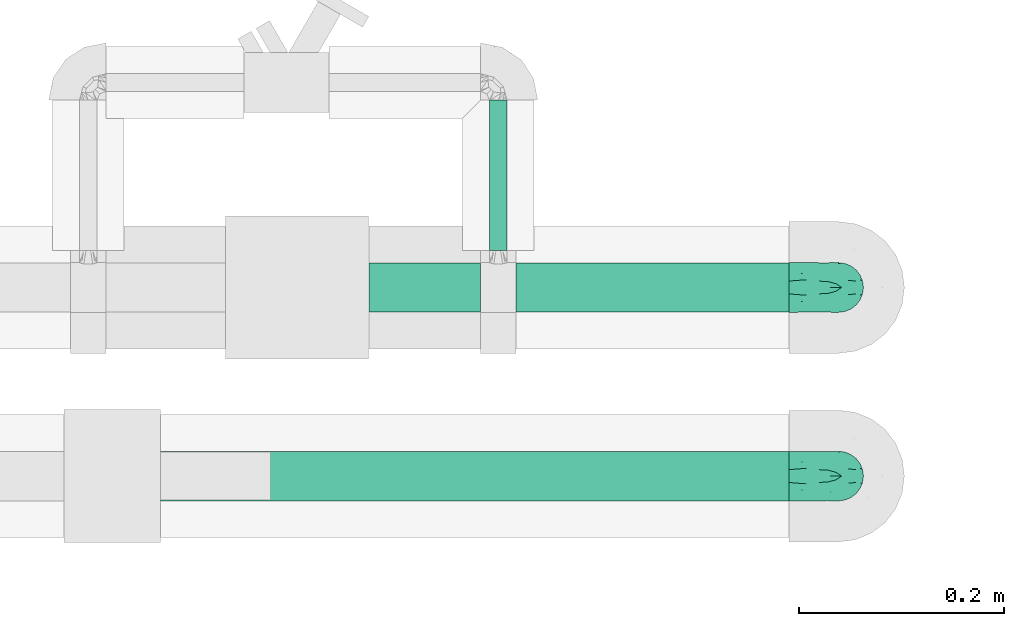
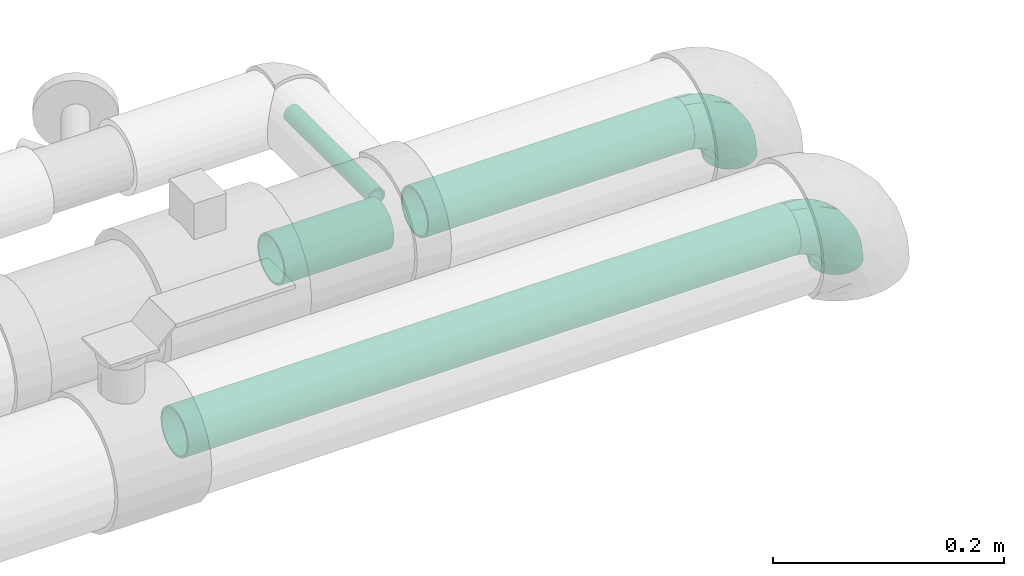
# One storey, part 39 of 83: 4 flow segments, 2 flow fittings.
"""IFC2X3 building model written with IfcOpenShell, lengths in millimetres."""

from ifc_helpers import new_model, entity, si_unit, converted_unit, derived_unit, direction, frame, origin_with_axes, origin_2d_with_axis, place, context, subcontext, project, spatial, hollow_circle, extrude, open_shell, surface_model, source, transform, mapped, type_object, element, save


model = new_model("IFC2X3")

# Units and contexts
model_context = context("Model", 3, precision=0.01, world=frame((0.0, 4.29681676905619e-09, 0.0)), true_north=direction((4.01073788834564e-13, 1.0)))
plan_context = context("Plan", 3, precision=0.01, world=frame((0.0, 4.29681676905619e-09, 0.0)), true_north=direction((4.01073788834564e-13, 1.0)))
body_context = subcontext(model_context, "Body", "Model", "MODEL_VIEW")
ifc_project = project(units=[converted_unit("PLANEANGLEUNIT", "DEGREE", entity("IfcPositiveLengthMeasure", 0.0174532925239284), si_unit("PLANEANGLEUNIT", "RADIAN"), dimensions=[0, 0, 0, 0, 0, 0, 0]), si_unit("AREAUNIT", "SQUARE_METRE"), si_unit("LENGTHUNIT", "METRE", prefix="MILLI"), si_unit("MASSUNIT", "GRAM", prefix="KILO"), si_unit("POWERUNIT", "WATT"), si_unit("PRESSUREUNIT", "PASCAL"), si_unit("FORCEUNIT", "NEWTON", prefix="KILO"), si_unit("ELECTRICVOLTAGEUNIT", "VOLT"), si_unit("ELECTRICCURRENTUNIT", "AMPERE"), si_unit("THERMODYNAMICTEMPERATUREUNIT", "DEGREE_CELSIUS"), si_unit("TIMEUNIT", "SECOND"), si_unit("VOLUMEUNIT", "CUBIC_METRE"), derived_unit("LINEARVELOCITYUNIT", [(si_unit("LENGTHUNIT", "METRE"), 1), (si_unit("TIMEUNIT", "SECOND"), -1)]), derived_unit("VOLUMETRICFLOWRATEUNIT", [(si_unit("VOLUMEUNIT", "CUBIC_METRE"), 1), (si_unit("TIMEUNIT", "SECOND"), -1)]), derived_unit("THERMALTRANSMITTANCEUNIT", [(si_unit("POWERUNIT", "WATT"), 1), (si_unit("THERMODYNAMICTEMPERATUREUNIT", "KELVIN"), -1), (si_unit("AREAUNIT", "SQUARE_METRE"), -1)]), derived_unit("SOUNDPRESSUREUNIT", [(si_unit("PRESSUREUNIT", "PASCAL"), 1)])], contexts=[model_context, plan_context])

# Site, building, storey
site_placement = place(None, frame((0.0, -4.29681676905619e-09, 0.0), z_axis=(0.0, 0.0, 1.0), x_axis=(1.0, 0.0, 0.0)))
site = spatial("IfcSite", under=ifc_project, at=site_placement, Name="ENGM", CompositionType="ELEMENT")
building_placement = place(site_placement, frame((0.0, 4.29681676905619e-09, 0.0), z_axis=(0.0, 0.0, 1.0), x_axis=(1.0, 0.0, 0.0)))
building = spatial("IfcBuilding", under=site, at=building_placement, Name="TI", CompositionType="ELEMENT")
storey_placement = place(building_placement, frame((0.0, 0.0, 204000.0), z_axis=(0.0, 0.0, 1.0), x_axis=(1.0, 0.0, 0.0)))
storey = spatial("IfcBuildingStorey", under=building, at=storey_placement, Name="Nivå D", CompositionType="ELEMENT", Elevation=204000.0)

# Flow fittings
pipe_fitting_type = type_object("IfcPipeFittingType", Name="magi_pipe_fe_elbow_short_001", PredefinedType="BEND")
shared_shape_1 = source(origin_with_axes(), body_context, "Body", "SurfaceModel", [
    surface_model("IfcShellBasedSurfaceModel", [(-48.4, 6.26342, -23.37541), (-48.4, 0.0, -24.2), (-48.4, 17.11198, -17.11198), (-48.4, 12.1, -20.95781), (-48.4, 23.37541, -6.26342), (-48.4, 20.95781, -12.1), (-48.4, -12.1, -20.95781), (-48.4, -17.11198, -17.11198), (-48.4, -20.95781, -12.1), (-48.4, -6.26342, -23.37541), (-48.4, -23.37541, -6.26342), (-48.4, -24.2, 0.0), (-48.4, -23.37541, 6.26342), (-48.4, 23.37541, 6.26342), (-48.4, 6.26342, 23.37541), (-48.4, 20.95781, 12.1), (-48.4, 17.11198, 17.11198), (-48.4, 12.1, 20.95781), (-48.4, -12.1, 20.95781), (-48.4, -20.95781, 12.1), (-48.4, -17.11198, 17.11198), (-48.4, -6.26342, 23.37541), (-48.4, 0.0, 24.2), (-48.4, 24.2, 0.0), (-17.11198, 48.4, -17.11198), (0.0, 48.4, -24.2), (-6.26342, 48.4, -23.37541), (-12.1, 48.4, -20.95781), (-20.95781, 48.4, -12.1), (-23.37541, 48.4, -6.26342), (12.1, 48.4, -20.95781), (20.95781, 48.4, -12.1), (17.11198, 48.4, -17.11198), (6.26342, 48.4, -23.37541), (23.37541, 48.4, -6.26342), (23.37541, 48.4, 6.26342), (24.2, 48.4, 0.0), (-23.37541, 48.4, 6.26342), (-6.26342, 48.4, 23.37541), (-17.11198, 48.4, 17.11198), (-20.95781, 48.4, 12.1), (-12.1, 48.4, 20.95781), (12.1, 48.4, 20.95781), (17.11198, 48.4, 17.11198), (20.95781, 48.4, 12.1), (0.0, 48.4, 24.2), (6.26342, 48.4, 23.37541), (-24.2, 48.4, 0.0), (-35.50368, -18.80076, 13.58523), (-31.77913, -13.9618, 18.03279), (-34.50859, -21.43683, 0.0), (-21.39243, -15.41147, 12.21413), (-32.16301, -21.12203, 7.54749), (21.12203, 32.16301, 7.54749), (17.07617, 18.95745, 6.20374), (18.67365, 20.61718, 0.0), (-23.65565, 38.62451, 10.51816), (-20.21592, 37.67665, 15.89859), (-35.56981, -9.15108, 21.77256), (-36.96985, -3.20584, 23.78612), (-33.88786, 3.70953, 24.15875), (-8.84062, -10.8048, 0.0), (-18.95745, -17.07617, 6.20374), (-20.61718, -18.67365, 0.0), (-18.69715, -5.87343, 20.10488), (-24.09336, -0.21717, 23.45593), (-2.08262, -4.09091, 10.90396), (-0.40561, 0.49936, 14.45569), (-8.22634, -5.79523, 14.90978), (-37.83027, 20.17367, 15.88169), (-8.41063, 23.79825, 24.15658), (-17.92529, 17.92529, 23.61199), (-14.40991, 10.5752, 24.07534), (-41.86919, 14.6551, 19.71874), (-9.03342, 41.7434, 22.66763), (-3.31671, 36.19978, 24.14056), (-38.63654, 23.65174, 10.51655), (-38.25939, 25.77657, 5.32075), (-30.0475, 30.0475, 9.04616), (-37.30448, 9.49113, 22.86036), (-6.31688, 16.20853, 23.76192), (-12.02449, 4.43954, 22.59792), (-2.47225, 13.07459, 22.23951), (-4.32281, 4.32281, 19.78555), (13.9618, 31.77913, 18.03279), (15.41147, 21.39243, 12.21413), (18.80076, 35.50367, 13.58523), (-25.72741, 16.42033, 22.38358), (-26.59277, 10.36599, 23.76692), (3.20584, 36.96985, 23.78612), (9.15107, 35.56981, 21.77256), (5.87343, 18.69715, 20.10488), (21.43683, 34.50859, 0.0), (-23.74657, 5.93004, 24.18967), (-22.40302, 25.55556, 19.88516), (-33.3245, 16.42738, 20.3789), (-25.47357, 39.04012, 5.19167), (-30.32947, 31.74105, 4.25904), (11.04589, 19.60124, 16.55181), (-27.44219, 36.3, 0.0), (-10.46605, 32.79159, 23.04712), (-13.80953, 25.05111, 23.26361), (-17.54489, 31.27863, 20.33941), (-19.27982, 23.42922, 22.01925), (-14.78447, 40.57947, 19.81913), (-19.60124, -11.04589, 16.55181), (-25.09785, 32.07921, 13.69695), (-25.5093, 27.02629, 17.14196), (-31.08127, 26.00324, 13.49448), (0.21717, 24.09336, 23.45593), (5.51075, 8.40547, 15.32867), (-11.48597, -10.80284, 11.35932), (1.43689, -3.14326, 6.54995), (7.34882, 4.31024, 8.4514), (7.50574, 2.51208, 3.62663), (12.46453, 10.09451, 5.71609), (12.1504, 12.55391, 10.15678), (-36.3, 27.44219, 0.0), (-6.52237, -9.62364, 7.02633), (2.93595, -2.93595, 0.0), (10.8048, 8.84062, 0.0), (-19.60124, -11.04589, -16.55181), (-31.77913, -13.9618, -18.03279), (-18.69715, -5.87343, -20.10488), (-21.39243, -15.41147, -12.21413), (-37.67665, 20.21591, -15.89859), (-40.57947, 14.78447, -19.81913), (-39.04012, 25.47357, -5.19167), (-32.16301, -21.12203, -7.54749), (-30.0475, 30.0475, -9.04616), (-38.62452, 23.65565, -10.51816), (-18.95745, -17.07617, -6.20374), (-23.42922, 19.27982, -22.01926), (-25.05111, 13.80953, -23.26361), (-31.27863, 17.54489, -20.33941), (-14.6551, 41.86919, -19.71874), (-20.17367, 37.83026, -15.88169), (9.15108, 35.56981, -21.77256), (5.87343, 18.69715, -20.10488), (0.21717, 24.09336, -23.45593), (-41.7434, 9.03342, -22.66763), (-35.50368, -18.80076, -13.58523), (-35.56981, -9.15108, -21.77256), (-16.42033, 25.72741, -22.38358), (-9.49113, 37.30447, -22.86036), (-10.36599, 26.59277, -23.76692), (-36.96985, -3.20584, -23.78612), (-23.79826, 8.41063, -24.15658), (-17.92529, 17.92529, -23.61199), (-10.5752, 14.40991, -24.07534), (-36.19978, 3.31671, -24.14056), (-25.77657, 38.25939, -5.32075), (-23.65174, 38.63654, -10.51655), (-32.79159, 10.46605, -23.04712), (-31.74105, 30.32946, -4.25904), (-5.93004, 23.74657, -24.18967), (-25.55556, 22.40302, -19.88516), (-16.42738, 33.3245, -20.3789), (3.20584, 36.96985, -23.78612), (-3.70953, 33.88785, -24.15875), (18.80076, 35.50367, -13.58523), (13.9618, 31.77913, -18.03279), (7.50574, 2.51208, -3.62663), (12.46453, 10.09451, -5.71609), (-16.20853, 6.31688, -23.76192), (-4.43954, 12.02449, -22.59792), (-13.07459, 2.47225, -22.23951), (1.43689, -3.14326, -6.54995), (-6.52237, -9.62364, -7.02632), (-2.08262, -4.09091, -10.90396), (15.41147, 21.39243, -12.21413), (21.12203, 32.16301, -7.54749), (17.07617, 18.95745, -6.20374), (-32.07921, 25.09785, -13.69695), (11.04589, 19.60124, -16.55181), (12.1504, 12.55391, -10.15678), (5.51075, 8.40547, -15.32867), (-27.02629, 25.5093, -17.14196), (-26.00324, 31.08127, -13.49448), (-24.09336, -0.21717, -23.45593), (-4.32281, 4.32281, -19.78555), (-8.22634, -5.79524, -14.90978), (-11.48597, -10.80284, -11.35931), (-0.40561, 0.49936, -14.45569), (7.34882, 4.31024, -8.4514)], [open_shell([[[0, 1, 2]], [[3, 0, 2]], [[4, 5, 2]], [[6, 2, 1]], [[4, 2, 6]], [[7, 8, 6]], [[1, 9, 6]], [[8, 10, 6]], [[6, 10, 4]], [[11, 12, 10]], [[13, 4, 10]], [[14, 13, 10]], [[15, 13, 16]], [[13, 14, 17]], [[16, 13, 17]], [[10, 18, 14]], [[19, 20, 12]], [[20, 10, 12]], [[21, 22, 18]], [[20, 18, 10]], [[18, 22, 14]], [[23, 4, 13]], [[24, 25, 26]], [[24, 26, 27]], [[24, 28, 29]], [[25, 24, 30]], [[30, 24, 29]], [[30, 31, 32]], [[30, 33, 25]], [[30, 34, 31]], [[29, 34, 30]], [[34, 35, 36]], [[34, 29, 37]], [[34, 37, 38]], [[39, 37, 40]], [[41, 38, 37]], [[41, 37, 39]], [[38, 42, 34]], [[35, 43, 44]], [[35, 34, 43]], [[42, 45, 46]], [[34, 42, 43]], [[38, 45, 42]], [[37, 29, 47]], [[20, 48, 49]], [[12, 11, 50]], [[51, 48, 52]], [[53, 54, 55]], [[48, 20, 19]], [[12, 52, 19]], [[40, 56, 57]], [[49, 18, 20]], [[49, 58, 18]], [[22, 59, 60]], [[61, 62, 63]], [[58, 64, 65]], [[66, 67, 68]], [[15, 16, 69]], [[70, 71, 72]], [[17, 73, 16]], [[21, 59, 22]], [[38, 74, 75]], [[22, 60, 14]], [[15, 69, 76]], [[16, 73, 69]], [[23, 13, 77]], [[13, 15, 76]], [[77, 76, 78]], [[14, 79, 17]], [[80, 81, 82]], [[68, 83, 64]], [[84, 43, 42]], [[85, 86, 84]], [[87, 79, 88]], [[18, 58, 21]], [[45, 89, 46]], [[53, 35, 44]], [[45, 38, 75]], [[84, 90, 91]], [[44, 86, 53]], [[92, 35, 53]], [[86, 44, 43]], [[90, 42, 46]], [[53, 55, 92]], [[88, 93, 72]], [[54, 53, 85]], [[87, 94, 95]], [[78, 96, 97]], [[98, 84, 91]], [[99, 96, 47]], [[79, 14, 60]], [[96, 78, 56]], [[62, 52, 63]], [[57, 39, 40]], [[100, 70, 75]], [[101, 102, 103]], [[12, 50, 52]], [[104, 41, 39]], [[74, 38, 41]], [[57, 102, 104]], [[105, 64, 49]], [[90, 84, 42]], [[40, 37, 56]], [[56, 106, 57]], [[102, 57, 107]], [[95, 107, 69]], [[76, 108, 78]], [[100, 101, 70]], [[89, 75, 109]], [[64, 58, 49]], [[63, 52, 50]], [[59, 58, 65]], [[105, 49, 51]], [[64, 83, 81]], [[89, 90, 46]], [[36, 35, 92]], [[109, 82, 91]], [[109, 91, 90]], [[91, 83, 110]], [[111, 68, 105]], [[66, 68, 111]], [[62, 51, 52]], [[66, 112, 113]], [[114, 115, 113]], [[98, 85, 84]], [[52, 48, 19]], [[49, 48, 51]], [[84, 86, 43]], [[53, 86, 85]], [[88, 79, 60]], [[73, 79, 95]], [[96, 56, 37]], [[78, 108, 106]], [[87, 103, 94]], [[100, 74, 104]], [[108, 69, 107]], [[78, 97, 77]], [[88, 72, 71]], [[109, 75, 70]], [[81, 72, 65]], [[70, 72, 80]], [[75, 89, 45]], [[90, 89, 109]], [[58, 59, 21]], [[60, 59, 65]], [[67, 83, 68]], [[110, 113, 116]], [[88, 60, 93]], [[87, 88, 71]], [[103, 87, 71]], [[79, 87, 95]], [[101, 103, 71]], [[94, 103, 102]], [[47, 96, 37]], [[96, 99, 97]], [[99, 117, 97]], [[97, 117, 77]], [[23, 77, 117]], [[13, 76, 77]], [[60, 65, 93]], [[65, 72, 93]], [[70, 101, 71]], [[102, 101, 100]], [[69, 108, 76]], [[106, 108, 107]], [[57, 106, 107]], [[78, 106, 56]], [[57, 104, 39]], [[100, 104, 102]], [[102, 107, 94]], [[95, 94, 107]], [[64, 81, 65]], [[82, 81, 83]], [[91, 82, 83]], [[80, 82, 109]], [[70, 80, 109]], [[81, 80, 72]], [[79, 73, 17]], [[69, 73, 95]], [[104, 74, 41]], [[75, 74, 100]], [[62, 61, 118]], [[111, 62, 118]], [[113, 115, 116]], [[119, 118, 61]], [[111, 105, 51]], [[113, 112, 114]], [[120, 55, 54]], [[68, 64, 105]], [[91, 110, 98]], [[116, 98, 110]], [[62, 111, 51]], [[66, 111, 118]], [[112, 66, 118]], [[67, 113, 110]], [[118, 119, 112]], [[114, 112, 119]], [[119, 120, 114]], [[115, 120, 54]], [[120, 115, 114]], [[116, 54, 85]], [[54, 116, 115]], [[116, 85, 98]], [[113, 67, 66]], [[83, 67, 110]], [[121, 122, 123]], [[122, 121, 124]], [[5, 125, 2]], [[2, 126, 3]], [[117, 127, 23]], [[50, 10, 128]], [[127, 129, 130]], [[128, 131, 63]], [[132, 133, 134]], [[24, 135, 136]], [[137, 138, 139]], [[3, 140, 0]], [[128, 8, 141]], [[142, 6, 9]], [[128, 63, 50]], [[5, 4, 130]], [[8, 7, 141]], [[143, 144, 145]], [[146, 9, 1]], [[147, 148, 149]], [[8, 128, 10]], [[124, 141, 122]], [[150, 1, 0]], [[151, 152, 129]], [[125, 134, 126]], [[153, 147, 150]], [[127, 154, 129]], [[145, 155, 149]], [[47, 29, 151]], [[143, 156, 157]], [[152, 29, 28]], [[25, 158, 159]], [[122, 7, 6]], [[24, 27, 135]], [[144, 27, 26]], [[32, 160, 161]], [[25, 33, 158]], [[120, 162, 163]], [[130, 125, 5]], [[24, 136, 28]], [[0, 140, 150]], [[30, 161, 137]], [[142, 122, 6]], [[25, 159, 26]], [[164, 165, 166]], [[167, 168, 169]], [[31, 160, 32]], [[161, 30, 32]], [[170, 160, 171]], [[131, 128, 124]], [[36, 92, 34]], [[34, 92, 171]], [[172, 171, 55]], [[34, 171, 31]], [[144, 26, 159]], [[130, 173, 125]], [[174, 175, 176]], [[136, 152, 28]], [[30, 137, 33]], [[122, 142, 123]], [[134, 125, 177]], [[157, 177, 136]], [[152, 178, 129]], [[153, 133, 147]], [[146, 150, 179]], [[146, 142, 9]], [[11, 10, 50]], [[179, 166, 123]], [[179, 123, 142]], [[123, 180, 181]], [[138, 137, 161]], [[55, 171, 92]], [[158, 137, 139]], [[174, 161, 170]], [[138, 180, 165]], [[180, 138, 176]], [[124, 121, 182]], [[176, 183, 180]], [[61, 131, 168]], [[169, 168, 182]], [[172, 170, 171]], [[122, 141, 7]], [[128, 141, 124]], [[171, 160, 31]], [[161, 160, 170]], [[145, 144, 159]], [[135, 144, 157]], [[127, 130, 4]], [[129, 178, 173]], [[143, 132, 156]], [[153, 140, 126]], [[178, 136, 177]], [[129, 154, 151]], [[145, 149, 148]], [[179, 150, 147]], [[165, 149, 139]], [[147, 149, 164]], [[150, 146, 1]], [[142, 146, 179]], [[137, 158, 33]], [[159, 158, 139]], [[174, 138, 161]], [[184, 169, 183]], [[145, 159, 155]], [[143, 145, 148]], [[132, 143, 148]], [[144, 143, 157]], [[133, 132, 148]], [[156, 132, 134]], [[23, 127, 4]], [[127, 117, 154]], [[117, 99, 154]], [[154, 99, 151]], [[47, 151, 99]], [[29, 152, 151]], [[159, 139, 155]], [[139, 149, 155]], [[147, 133, 148]], [[134, 133, 153]], [[136, 178, 152]], [[173, 178, 177]], [[125, 173, 177]], [[129, 173, 130]], [[125, 126, 2]], [[153, 126, 134]], [[134, 177, 156]], [[157, 156, 177]], [[138, 165, 139]], [[166, 165, 180]], [[123, 166, 180]], [[164, 166, 179]], [[147, 164, 179]], [[165, 164, 149]], [[144, 135, 27]], [[136, 135, 157]], [[126, 140, 3]], [[150, 140, 153]], [[182, 131, 124]], [[168, 119, 61]], [[119, 167, 162]], [[63, 131, 61]], [[172, 163, 175]], [[172, 55, 120]], [[123, 181, 121]], [[182, 121, 181]], [[175, 174, 170]], [[176, 138, 174]], [[169, 182, 181]], [[131, 182, 168]], [[183, 169, 181]], [[167, 169, 184]], [[162, 167, 184]], [[119, 168, 167]], [[163, 162, 184]], [[120, 119, 162]], [[175, 163, 184]], [[120, 163, 172]], [[176, 175, 184]], [[172, 175, 170]], [[180, 183, 181]], [[184, 183, 176]]])]),
])
for number, where, z_axis, x_axis, name in (
    (1, (609976.22289, 697908.0, 5915.24411), (0.0, -1.0, 0.0), (0.0, 0.0, 1.0), "magi_pipe_fe_elbow_short_001"),
    (2, (609976.22289, 698092.0, 5915.24411), (0.0, -1.0, 0.0), (0.0, 0.0, 1.0), "magi_pipe_fe_elbow_short_001"),
):
    element("IfcFlowFitting", number, at=place(storey_placement, frame(where, z_axis=z_axis, x_axis=x_axis)), inside=storey, type_object=pipe_fitting_type, Name=name, context=body_context, shape_type="MappedRepresentation", body=[
        mapped(shared_shape_1, transform((0.0, 0.0, 0.0), scale=1.0)),
    ])

# Flow segments
pipe_segment_type = type_object("IfcPipeSegmentType", Name="Stålrør normaltykke", PredefinedType="RIGIDSEGMENT")
shared_shape_2 = source(origin_with_axes(), body_context, "Body", "SweptSolid", [
    extrude(hollow_circle(Radius=24.1, WallThickness=2.0, at=origin_2d_with_axis()), frame((0.0, 0.0, 0.0), z_axis=(1.0, 0.0, 0.0), x_axis=(0.0, 1.0, 0.0)), (0.0, 0.0, 1.0), 109.1),
])
flow_segment_1_placement = place(storey_placement, frame((609626.87456, 698092.0, 5915.24411), z_axis=(0.0, 0.0, 1.0), x_axis=(-1.0, 0.0, 0.0)))
element("IfcFlowSegment", 3, at=flow_segment_1_placement, inside=storey, type_object=pipe_segment_type, Name="Stålrør normaltykke", context=body_context, shape_type="MappedRepresentation", body=[
    mapped(shared_shape_2, transform((0.0, 0.0, 0.0), scale=1.0)),
])
shared_shape_3 = source(origin_with_axes(), body_context, "Body", "SweptSolid", [
    extrude(hollow_circle(Radius=24.1, WallThickness=2.0, at=origin_2d_with_axis()), frame((0.0, 0.0, 0.0), z_axis=(1.0, 0.0, 0.0), x_axis=(0.0, 1.0, 0.0)), (0.0, 0.0, 1.0), 266.5),
])
flow_segment_2_placement = place(storey_placement, frame((609927.82289, 698092.0, 5915.24411), z_axis=(0.0, 0.0, 1.0), x_axis=(-1.0, 0.0, 0.0)))
element("IfcFlowSegment", 4, at=flow_segment_2_placement, inside=storey, type_object=pipe_segment_type, Name="Stålrør normaltykke", context=body_context, shape_type="MappedRepresentation", body=[
    mapped(shared_shape_3, transform((0.0, 0.0, 0.0), scale=1.0)),
])
shared_shape_4 = source(origin_with_axes(), body_context, "Body", "SweptSolid", [
    extrude(hollow_circle(Radius=8.6, WallThickness=2.0, at=origin_2d_with_axis()), frame((0.0, 0.0, 0.0), z_axis=(1.0, 0.0, 0.0), x_axis=(0.0, 1.0, 0.0)), (0.0, 0.0, 1.0), 146.5),
])
flow_segment_3_placement = place(storey_placement, frame((609644.07456, 698128.3, 5915.20000000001), z_axis=(0.0, 0.0, 1.0), x_axis=(0.0, 1.0, 0.0)))
element("IfcFlowSegment", 5, at=flow_segment_3_placement, inside=storey, type_object=pipe_segment_type, Name="Stålrør normaltykke", context=body_context, shape_type="MappedRepresentation", body=[
    mapped(shared_shape_4, transform((0.0, 0.0, 0.0), scale=1.0, scale2=1.0, scale3=1.0, uniform=False)),
])
shared_shape_5 = source(origin_with_axes(), body_context, "Body", "SweptSolid", [
    extrude(hollow_circle(Radius=24.1, WallThickness=2.0, at=origin_2d_with_axis()), frame((0.0, 0.0, 0.0), z_axis=(1.0, 0.0, 0.0), x_axis=(0.0, 1.0, 0.0)), (0.0, 0.0, 1.0), 613.2),
])
flow_segment_4_placement = place(storey_placement, frame((609927.82289, 697908.0, 5915.24411), z_axis=(0.0, 0.0, 1.0), x_axis=(-1.0, 0.0, 0.0)))
element("IfcFlowSegment", 6, at=flow_segment_4_placement, inside=storey, type_object=pipe_segment_type, Name="Stålrør normaltykke", context=body_context, shape_type="MappedRepresentation", body=[
    mapped(shared_shape_5, transform((0.0, 0.0, 0.0), scale=1.0)),
])

save(model, "model.ifc")
